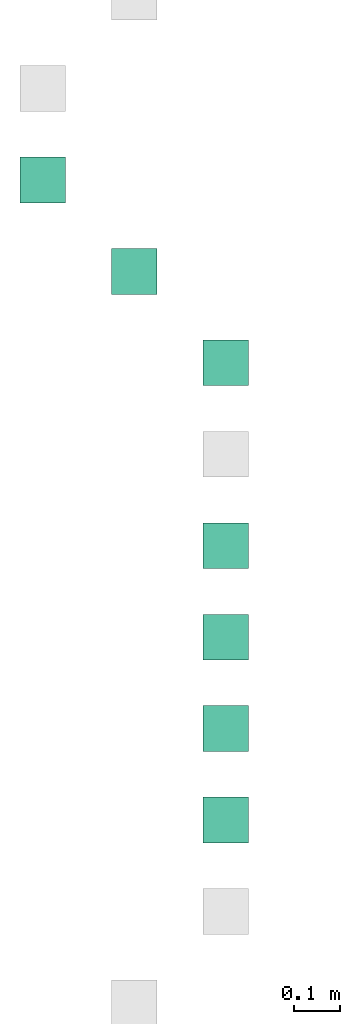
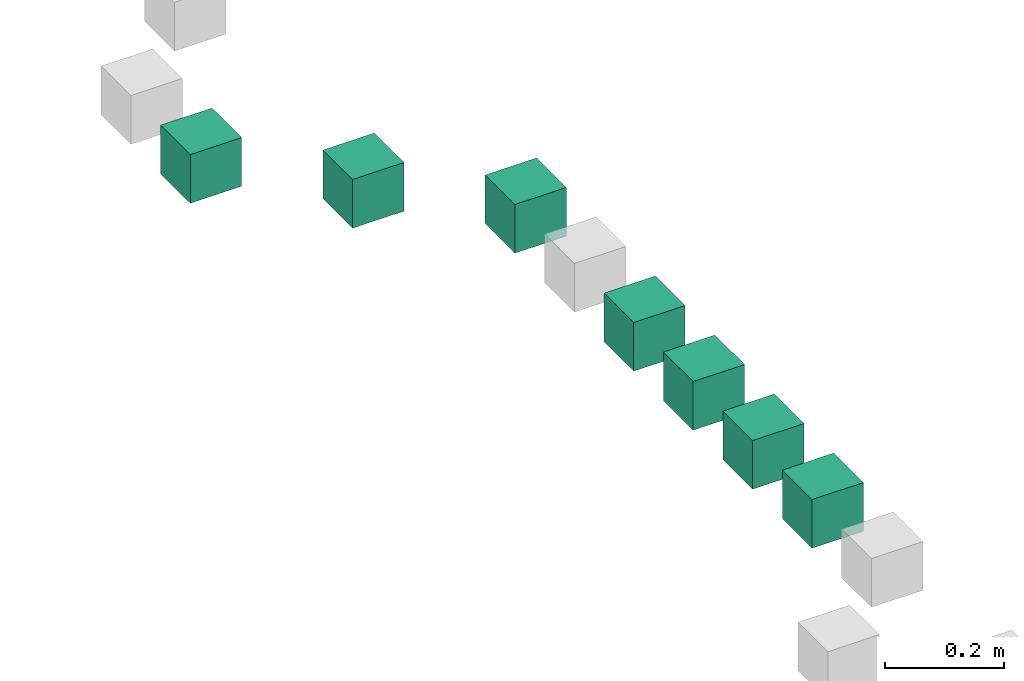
# One storey, part 5 of 7: 1 actuator, 1 controller, 1 distribution control element, 1 distribution element, 1 flow instrument, 1 protective device tripping unit, 1 sensor.
"""IFC4 building model written with IfcOpenShell, lengths in millimetres."""

from ifc_helpers import new_model, entity, si_unit, converted_unit, derived_unit, direction, frame, origin, origin_2d_with_axis, place, context, subcontext, project, spatial, rectangle, extrude, source, transform, mapped, material, type_object, type_shapes, element, save


model = new_model("IFC4")

# Units and contexts
model_context = context("Model", 3, precision=0.01, world=origin(), true_north=direction((6.12303176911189e-17, 1.0)))
body_context = subcontext(model_context, "Body", "Model", "MODEL_VIEW")
ifc_project = project(units=[si_unit("LENGTHUNIT", "METRE", prefix="MILLI"), si_unit("AREAUNIT", "SQUARE_METRE"), si_unit("VOLUMEUNIT", "CUBIC_METRE"), converted_unit("PLANEANGLEUNIT", "DEGREE", entity("IfcRatioMeasure", 0.0174532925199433), si_unit("PLANEANGLEUNIT", "RADIAN"), dimensions=[0, 0, 0, 0, 0, 0, 0]), si_unit("MASSUNIT", "GRAM", prefix="KILO"), derived_unit("MASSDENSITYUNIT", [(si_unit("MASSUNIT", "GRAM", prefix="KILO"), 1), (si_unit("LENGTHUNIT", "METRE"), -3)]), derived_unit("MOMENTOFINERTIAUNIT", [(si_unit("LENGTHUNIT", "METRE"), 4)]), si_unit("TIMEUNIT", "SECOND"), si_unit("FREQUENCYUNIT", "HERTZ"), si_unit("THERMODYNAMICTEMPERATUREUNIT", "DEGREE_CELSIUS"), derived_unit("THERMALTRANSMITTANCEUNIT", [(si_unit("MASSUNIT", "GRAM", prefix="KILO"), 1), (si_unit("THERMODYNAMICTEMPERATUREUNIT", "KELVIN"), -1), (si_unit("TIMEUNIT", "SECOND"), -3)]), derived_unit("VOLUMETRICFLOWRATEUNIT", [(si_unit("LENGTHUNIT", "METRE"), 3), (si_unit("TIMEUNIT", "SECOND"), -1)]), si_unit("ELECTRICCURRENTUNIT", "AMPERE"), si_unit("ELECTRICVOLTAGEUNIT", "VOLT"), si_unit("POWERUNIT", "WATT"), si_unit("FORCEUNIT", "NEWTON", prefix="KILO"), si_unit("ILLUMINANCEUNIT", "LUX"), si_unit("LUMINOUSFLUXUNIT", "LUMEN"), si_unit("LUMINOUSINTENSITYUNIT", "CANDELA"), derived_unit("USERDEFINED", [(si_unit("MASSUNIT", "GRAM", prefix="KILO"), -1), (si_unit("LENGTHUNIT", "METRE"), -2), (si_unit("TIMEUNIT", "SECOND"), 3), (si_unit("LUMINOUSFLUXUNIT", "LUMEN"), 1)]), derived_unit("LINEARVELOCITYUNIT", [(si_unit("LENGTHUNIT", "METRE"), 1), (si_unit("TIMEUNIT", "SECOND"), -1)]), si_unit("PRESSUREUNIT", "PASCAL"), derived_unit("USERDEFINED", [(si_unit("LENGTHUNIT", "METRE"), -2), (si_unit("MASSUNIT", "GRAM", prefix="KILO"), 1), (si_unit("TIMEUNIT", "SECOND"), -2)]), derived_unit("LINEARFORCEUNIT", [(si_unit("MASSUNIT", "GRAM", prefix="KILO"), 1), (si_unit("LENGTHUNIT", "METRE"), 1), (si_unit("TIMEUNIT", "SECOND"), -2), (si_unit("LENGTHUNIT", "METRE"), -1)]), derived_unit("PLANARFORCEUNIT", [(si_unit("MASSUNIT", "GRAM", prefix="KILO"), 1), (si_unit("LENGTHUNIT", "METRE"), 1), (si_unit("TIMEUNIT", "SECOND"), -2), (si_unit("LENGTHUNIT", "METRE"), -2)])], contexts=[model_context])

# Site, building, storey
site_placement = place(None, origin())
site = spatial("IfcSite", under=ifc_project, at=site_placement, Name="Default", CompositionType="ELEMENT")
building_placement = place(site_placement, origin())
building = spatial("IfcBuilding", under=site, at=building_placement, CompositionType="ELEMENT")
storey_placement = place(building_placement, origin())
storey = spatial("IfcBuildingStorey", under=building, at=storey_placement, Name="Level 1", CompositionType="ELEMENT", Elevation=0.0)

# Distribution element
ifc_material = material(Name="<Unnamed>")
distribution_element_type = type_object("IfcDistributionElementType", Name="Generic Ifc Family:Generic Ifc Family", material=ifc_material)
shared_shape_1 = source(origin(), body_context, "Body", "SweptSolid", [
    extrude(rectangle(XDim=100.0, YDim=100.0, at=origin_2d_with_axis()), frame((50.0, 50.0, 0.0), z_axis=(0.0, 0.0, 1.0), x_axis=(0.0, -1.0, 0.0)), (0.0, 0.0, 1.0), 100.0),
])
type_shapes(distribution_element_type, [shared_shape_1])
distribution_element_placement = place(storey_placement, frame((0.0, 18900.0, 0.0), z_axis=(0.0, 0.0, 1.0), x_axis=(0.0, -1.0, 0.0)))
element("IfcDistributionElement", 1, at=distribution_element_placement, inside=storey, type_object=distribution_element_type, material=ifc_material, Name="Generic Ifc Family:Generic Ifc Family", ObjectType="Generic Ifc Family:Generic Ifc Family", context=body_context, shape_type="MappedRepresentation", body=[
    mapped(shared_shape_1, transform((0.0, 0.0, 0.0), scale=1.0)),
])

# Distribution control element
distribution_control_element_placement = place(storey_placement, frame((200.0, 18700.0, 0.0), z_axis=(0.0, 0.0, 1.0), x_axis=(0.0, -1.0, 0.0)))
element("IfcDistributionControlElement", 2, at=distribution_control_element_placement, inside=storey, type_object=distribution_element_type, material=ifc_material, Name="Generic Ifc Family:Generic Ifc Family", ObjectType="Generic Ifc Family:Generic Ifc Family", context=body_context, shape_type="MappedRepresentation", body=[
    mapped(shared_shape_1, transform((0.0, 0.0, 0.0), scale=1.0)),
])

# Actuator
actuator_type = type_object("IfcActuatorType", Name="Generic Ifc Family:Generic Ifc Family", PredefinedType="NOTDEFINED", material=ifc_material)
shared_shape_2 = source(origin(), body_context, "Body", "SweptSolid", [
    extrude(rectangle(XDim=100.0, YDim=100.0, at=origin_2d_with_axis()), frame((50.0, 50.0, 0.0), z_axis=(0.0, 0.0, 1.0), x_axis=(0.0, -1.0, 0.0)), (0.0, 0.0, 1.0), 100.0),
])
type_shapes(actuator_type, [shared_shape_2])
actuator_placement = place(storey_placement, frame((400.0, 18500.0, 0.0), z_axis=(0.0, 0.0, 1.0), x_axis=(0.0, -1.0, 0.0)))
element("IfcActuator", 3, at=actuator_placement, inside=storey, type_object=actuator_type, material=ifc_material, Name="Generic Ifc Family:Generic Ifc Family", ObjectType="Generic Ifc Family:Generic Ifc Family", PredefinedType="NOTDEFINED", context=body_context, shape_type="MappedRepresentation", body=[
    mapped(shared_shape_2, transform((0.0, 0.0, 0.0), scale=1.0)),
])

# Controller
controller_type = type_object("IfcControllerType", Name="Generic Ifc Family:Generic Ifc Family", PredefinedType="NOTDEFINED", material=ifc_material)
shared_shape_3 = source(origin(), body_context, "Body", "SweptSolid", [
    extrude(rectangle(XDim=100.0, YDim=100.0, at=origin_2d_with_axis()), frame((50.0, 50.0, 0.0), z_axis=(0.0, 0.0, 1.0), x_axis=(0.0, -1.0, 0.0)), (0.0, 0.0, 1.0), 100.0),
])
type_shapes(controller_type, [shared_shape_3])
controller_placement = place(storey_placement, frame((400.0, 18100.0, 0.0), z_axis=(0.0, 0.0, 1.0), x_axis=(0.0, -1.0, 0.0)))
element("IfcController", 4, at=controller_placement, inside=storey, type_object=controller_type, material=ifc_material, Name="Generic Ifc Family:Generic Ifc Family", ObjectType="Generic Ifc Family:Generic Ifc Family", PredefinedType="NOTDEFINED", context=body_context, shape_type="MappedRepresentation", body=[
    mapped(shared_shape_3, transform((0.0, 0.0, 0.0), scale=1.0)),
])

# Flow instrument
flow_instrument_type = type_object("IfcFlowInstrumentType", Name="Generic Ifc Family:Generic Ifc Family", PredefinedType="NOTDEFINED", material=ifc_material)
shared_shape_4 = source(origin(), body_context, "Body", "SweptSolid", [
    extrude(rectangle(XDim=100.0, YDim=100.0, at=origin_2d_with_axis()), frame((50.0, 50.0, 0.0), z_axis=(0.0, 0.0, 1.0), x_axis=(0.0, -1.0, 0.0)), (0.0, 0.0, 1.0), 100.0),
])
type_shapes(flow_instrument_type, [shared_shape_4])
flow_instrument_placement = place(storey_placement, frame((400.0, 17900.0, 0.0), z_axis=(0.0, 0.0, 1.0), x_axis=(0.0, -1.0, 0.0)))
element("IfcFlowInstrument", 5, at=flow_instrument_placement, inside=storey, type_object=flow_instrument_type, material=ifc_material, Name="Generic Ifc Family:Generic Ifc Family", ObjectType="Generic Ifc Family:Generic Ifc Family", PredefinedType="NOTDEFINED", context=body_context, shape_type="MappedRepresentation", body=[
    mapped(shared_shape_4, transform((0.0, 0.0, 0.0), scale=1.0)),
])

# Protective device tripping unit
protective_device_tripping_unit_type = type_object("IfcProtectiveDeviceTrippingUnitType", Name="Generic Ifc Family:Generic Ifc Family", PredefinedType="NOTDEFINED", material=ifc_material)
shared_shape_5 = source(origin(), body_context, "Body", "SweptSolid", [
    extrude(rectangle(XDim=100.0, YDim=100.0, at=origin_2d_with_axis()), frame((50.0, 50.0, 0.0), z_axis=(0.0, 0.0, 1.0), x_axis=(0.0, -1.0, 0.0)), (0.0, 0.0, 1.0), 100.0),
])
type_shapes(protective_device_tripping_unit_type, [shared_shape_5])
protective_device_tripping_unit_placement = place(storey_placement, frame((400.0, 17700.0, 0.0), z_axis=(0.0, 0.0, 1.0), x_axis=(0.0, -1.0, 0.0)))
element("IfcProtectiveDeviceTrippingUnit", 6, at=protective_device_tripping_unit_placement, inside=storey, type_object=protective_device_tripping_unit_type, material=ifc_material, Name="Generic Ifc Family:Generic Ifc Family", ObjectType="Generic Ifc Family:Generic Ifc Family", PredefinedType="NOTDEFINED", context=body_context, shape_type="MappedRepresentation", body=[
    mapped(shared_shape_5, transform((0.0, 0.0, 0.0), scale=1.0)),
])

# Sensor
sensor_type = type_object("IfcSensorType", Name="Generic Ifc Family:Generic Ifc Family", PredefinedType="NOTDEFINED", material=ifc_material)
shared_shape_6 = source(origin(), body_context, "Body", "SweptSolid", [
    extrude(rectangle(XDim=100.0, YDim=100.0, at=origin_2d_with_axis()), frame((50.0, 50.0, 0.0), z_axis=(0.0, 0.0, 1.0), x_axis=(0.0, -1.0, 0.0)), (0.0, 0.0, 1.0), 100.0),
])
type_shapes(sensor_type, [shared_shape_6])
sensor_placement = place(storey_placement, frame((400.0, 17500.0, 0.0), z_axis=(0.0, 0.0, 1.0), x_axis=(0.0, -1.0, 0.0)))
element("IfcSensor", 7, at=sensor_placement, inside=storey, type_object=sensor_type, material=ifc_material, Name="Generic Ifc Family:Generic Ifc Family", ObjectType="Generic Ifc Family:Generic Ifc Family", PredefinedType="NOTDEFINED", context=body_context, shape_type="MappedRepresentation", body=[
    mapped(shared_shape_6, transform((0.0, 0.0, 0.0), scale=1.0)),
])

save(model, "model.ifc")
